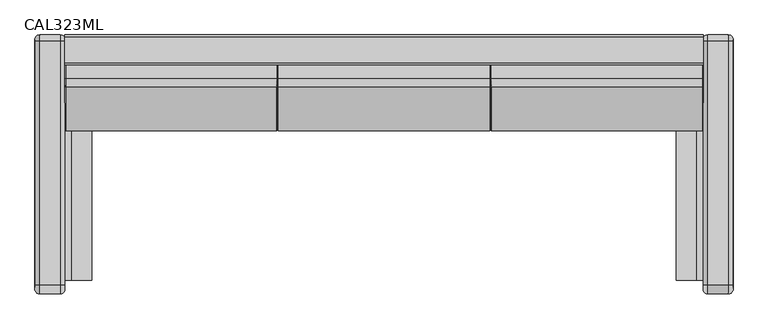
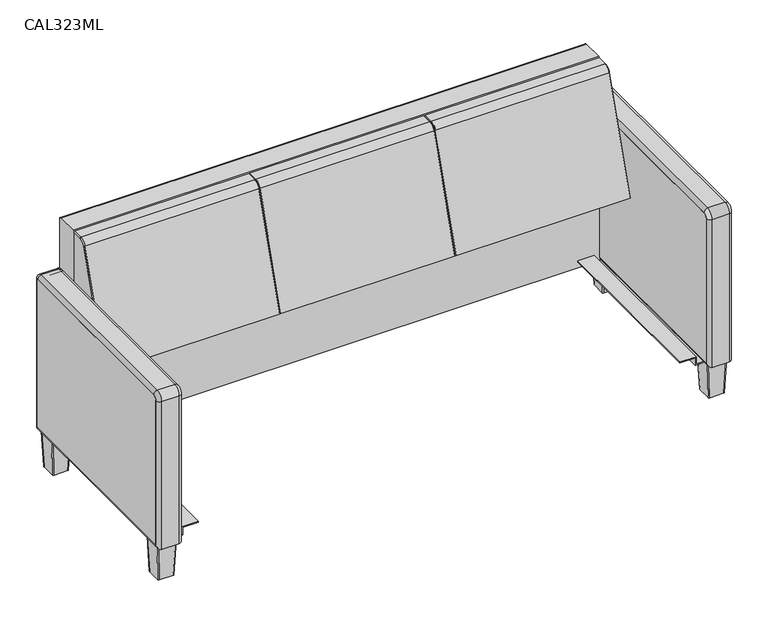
"""IFC4 building model written with IfcOpenShell, lengths in millimetres: furniture geometry, Stance_Healthacare-Carlson-Arm_Chair : CAL323ML."""

from ifc_helpers import new_model, si_unit, point, frame, frame_2d, origin, place, context, project, spatial, polyline, circle_curve, ellipse_curve, trimmed, segment, composite_curve, outline, extrude, source, transform, mapped, element, save
from ifc_brep_helpers import plane_surface, cylinder_surface, revolved_surface, extruded_surface, advanced_brep


def cal323ml_00ee40da(model_context):
    return source(origin(), model_context, "Body", "SolidModel", [
        extrude(outline(polyline([(120.65, 885.825), (123.825, 885.825), (123.825, 857.25), (149.225, 857.25), (149.225, 803.275), (146.05, 803.275), (146.05, 854.075), (120.65, 854.075), (120.65, 885.825)])), frame((0.0, -299.4664097, 0.0), z_axis=(0.0, 1.0, 0.0), x_axis=(0.0, 0.0, 1.0)), (0.0, 0.0, 1.0), 635.0),
        extrude(outline(composite_curve([segment(trimmed(circle_curve(frame_2d((357.7585903, 655.6502)), 3.175), [point((357.7585903, 658.8252))], [point((360.9335903, 655.6502))], False, "CARTESIAN"), True, "CONTINUOUS"), segment(polyline([(360.9335903, 655.6502), (360.9335903, 136.525), (-324.8664097, 136.525), (-324.8664097, 646.1252)]), True, "CONTINUOUS"), segment(trimmed(circle_curve(frame_2d((-312.1664097, 646.1252)), 12.7), [point((-324.8664097, 646.1252))], [point((-312.1664097, 658.8252))], False, "CARTESIAN"), True, "CONTINUOUS"), segment(polyline([(-312.1664097, 658.8252), (357.7585903, 658.8252)]), True, "CONTINUOUS")], self_intersect=False)), frame((876.3, 0.0, 0.0), z_axis=(1.0, 0.0, 0.0), x_axis=(0.0, 1.0, 0.0)), (0.0, 0.0, 1.0), 82.55),
        advanced_brep(
        [(889.0, 357.7585903, 671.5252), (946.15, 357.7585903, 671.5252), (946.15, 373.6335903, 655.6502), (889.0, 373.6335903, 655.6502), (876.3, 357.7585903, 658.8252), (876.3, 360.9335903, 655.6502), (958.85, 357.7585903, 658.8252), (958.85, 360.9335903, 655.6502), (889.0, -312.1664097, 671.5252), (946.15, -312.1664097, 671.5252), (876.3, -312.1664097, 658.8252), (958.85, -312.1664097, 658.8252), (889.0, -337.5664097, 646.1252), (946.15, -337.5664097, 646.1252), (876.3, -324.8664097, 646.1252), (958.85, -324.8664097, 646.1252), (889.0, -337.5664097, 123.825), (946.15, -337.5664097, 123.825), (876.3, -324.8664097, 136.525), (958.85, -324.8664097, 136.525), (889.0, 373.6335903, 123.825), (946.15, 373.6335903, 123.825), (876.3, 360.9335903, 136.525), (958.85, 360.9335903, 136.525)],
        [
            (0, 1),
            (1, 2, circle_curve(frame((946.15, 357.7585903, 655.6502), z_axis=(-1.0, 0.0, 0.0), x_axis=(0.0, 1.0, 0.0)), 15.875)),
            (2, 3),
            (3, 0, circle_curve(frame((889.0, 357.7585903, 655.6502), z_axis=(1.0, 0.0, 0.0), x_axis=(0.0, 1.0, 0.0)), 15.875)),
            (4, 0, circle_curve(frame((889.0, 357.7585903, 658.8252), z_axis=(0.0, 1.0, 0.0), x_axis=(-1.0, 0.0, 0.0)), 12.7)),
            (3, 5, circle_curve(frame((889.0, 360.9335903, 655.6502), z_axis=(0.0, 0.0, 1.0), x_axis=(-1.0, 0.0, 0.0)), 12.7)),
            (5, 4, circle_curve(frame((876.3, 357.7585903, 655.6502), z_axis=(1.0, 0.0, 0.0), x_axis=(0.0, 1.0, 0.0)), 3.175)),
            (6, 4),
            (5, 7),
            (7, 6, circle_curve(frame((958.85, 357.7585903, 655.6502), z_axis=(1.0, 0.0, 0.0), x_axis=(0.0, 1.0, 0.0)), 3.175)),
            (1, 6, circle_curve(frame((946.15, 357.7585903, 658.8252), z_axis=(0.0, 1.0, 0.0), x_axis=(-1.0, 0.0, 0.0)), 12.7)),
            (7, 2, circle_curve(frame((946.15, 360.9335903, 655.6502), z_axis=(0.0, 0.0, 1.0), x_axis=(-1.0, 0.0, 0.0)), 12.7)),
            (0, 8),
            (8, 9),
            (9, 1),
            (4, 10),
            (10, 8, circle_curve(frame((889.0, -312.1664097, 658.8252), z_axis=(0.0, 1.0, 0.0), x_axis=(-1.0, 0.0, 0.0)), 12.7)),
            (6, 11),
            (11, 10),
            (9, 11, circle_curve(frame((946.15, -312.1664097, 658.8252), z_axis=(0.0, 1.0, 0.0), x_axis=(-1.0, 0.0, 0.0)), 12.7)),
            (12, 13),
            (13, 9, circle_curve(frame((946.15, -312.1664097, 646.1252), z_axis=(-1.0, 0.0, 0.0), x_axis=(0.0, 0.0, 1.0)), 25.4)),
            (8, 12, circle_curve(frame((889.0, -312.1664097, 646.1252), z_axis=(1.0, 0.0, 0.0), x_axis=(0.0, 0.0, 1.0)), 25.4)),
            (14, 12, circle_curve(frame((889.0, -324.8664097, 646.1252), z_axis=(0.0, 0.0, 1.0), x_axis=(-1.0, 0.0, 0.0)), 12.7)),
            (10, 14, circle_curve(frame((876.3, -312.1664097, 646.1252), z_axis=(1.0, 0.0, 0.0), x_axis=(0.0, 0.0, 1.0)), 12.7)),
            (15, 14),
            (11, 15, circle_curve(frame((958.85, -312.1664097, 646.1252), z_axis=(1.0, 0.0, 0.0), x_axis=(0.0, 0.0, 1.0)), 12.7)),
            (13, 15, circle_curve(frame((946.15, -324.8664097, 646.1252), z_axis=(0.0, 0.0, 1.0), x_axis=(-1.0, 0.0, 0.0)), 12.7)),
            (12, 16),
            (16, 17),
            (17, 13),
            (14, 18),
            (18, 16, ellipse_curve(frame((889.0, -324.8664097, 136.525), z_axis=(0.0, -0.7071067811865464, 0.7071067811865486), x_axis=(0.0, 0.7071067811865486, 0.7071067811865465)), 17.9605122, 12.7)),
            (15, 19),
            (19, 18),
            (17, 19, ellipse_curve(frame((946.15, -324.8664097, 136.525), z_axis=(0.0, -0.7071067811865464, 0.7071067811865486), x_axis=(0.0, 0.7071067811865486, 0.7071067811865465)), 17.9605122, 12.7)),
            (16, 20),
            (20, 21),
            (21, 17),
            (18, 22),
            (22, 20, ellipse_curve(frame((889.0, 360.9335903, 136.525), z_axis=(0.0, -0.7071067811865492, -0.7071067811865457), x_axis=(0.0, -0.7071067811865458, 0.7071067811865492)), 17.9605122, 12.7)),
            (19, 23),
            (23, 22),
            (21, 23, ellipse_curve(frame((946.15, 360.9335903, 136.525), z_axis=(0.0, -0.7071067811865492, -0.7071067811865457), x_axis=(0.0, -0.7071067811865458, 0.7071067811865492)), 17.9605122, 12.7)),
            (20, 3),
            (2, 21),
            (22, 5),
            (23, 7),
        ],
        [
            cylinder_surface(frame((876.3, 357.7585903, 655.6502), z_axis=(-1.0, 0.0, 0.0), x_axis=(0.0, 1.0, 0.0)), 15.875),
            revolved_surface(trimmed(ellipse_curve(frame((889.0, 360.9335903, 655.6502), z_axis=(0.0, 0.0, 1.0), x_axis=(-1.0, 0.0, 0.0)), 12.7, 12.7), [point((889.0, 373.6335903, 655.6502))], [point((876.3, 360.9335903, 655.6502))], True, "CARTESIAN"), (876.3, 357.7585903, 655.6502), (-1.0, 0.0, 0.0)),
            revolved_surface(polyline([(876.3, 360.9335903, 655.6502), (958.85, 360.9335903, 655.6502)]), (876.3, 357.7585903, 655.6502), (-1.0, 0.0, 0.0)),
            revolved_surface(trimmed(ellipse_curve(frame((946.15, 360.9335903, 655.6502), z_axis=(0.0, 0.0, 1.0), x_axis=(-1.0, 0.0, 0.0)), 12.7, 12.7), [point((958.85, 360.9335903, 655.6502))], [point((946.15, 373.6335903, 655.6502))], True, "CARTESIAN"), (876.3, 357.7585903, 655.6502), (-1.0, 0.0, 0.0)),
            plane_surface(frame((946.15, 357.7585903, 671.5252), z_axis=(0.0, 0.0, 1.0), x_axis=(0.0, -1.0, 0.0))),
            cylinder_surface(frame((889.0, 357.7585903, 658.8252), z_axis=(0.0, 1.0, 0.0), x_axis=(-1.0, 0.0, 0.0)), 12.7),
            plane_surface(frame((876.3, 357.7585903, 658.8252), z_axis=(0.0, 0.0, -1.0), x_axis=(0.0, -1.0, 0.0))),
            cylinder_surface(frame((946.15, 357.7585903, 658.8252), z_axis=(0.0, 1.0, 0.0), x_axis=(-1.0, 0.0, 0.0)), 12.7),
            cylinder_surface(frame((876.3, -312.1664097, 646.1252), z_axis=(-1.0, 0.0, 0.0), x_axis=(0.0, 0.0, 1.0)), 25.4),
            revolved_surface(trimmed(ellipse_curve(frame((889.0, -312.1664097, 658.8252), z_axis=(0.0, -1.0, 0.0), x_axis=(-1.0, 0.0, 0.0)), 12.7, 12.7), [point((889.0, -312.1664097, 671.5252))], [point((876.3, -312.1664097, 658.8252))], True, "CARTESIAN"), (876.3, -312.1664097, 646.1252), (-1.0, 0.0, 0.0)),
            revolved_surface(polyline([(876.3, -312.1664097, 658.8252), (958.85, -312.1664097, 658.8252)]), (876.3, -312.1664097, 646.1252), (-1.0, 0.0, 0.0)),
            revolved_surface(trimmed(ellipse_curve(frame((946.15, -312.1664097, 658.8252), z_axis=(0.0, -1.0, 0.0), x_axis=(-1.0, 0.0, 0.0)), 12.7, 12.7), [point((958.85, -312.1664097, 658.8252))], [point((946.15, -312.1664097, 671.5252))], True, "CARTESIAN"), (876.3, -312.1664097, 646.1252), (-1.0, 0.0, 0.0)),
            plane_surface(frame((946.15, -337.5664097, 646.1252), z_axis=(0.0, -1.0, 0.0), x_axis=(0.0, 0.0, -1.0))),
            cylinder_surface(frame((889.0, -324.8664097, 646.1252), z_axis=(0.0, 0.0, 1.0), x_axis=(-1.0, 0.0, 0.0)), 12.7),
            plane_surface(frame((876.3, -324.8664097, 646.1252), z_axis=(0.0, 1.0, 0.0), x_axis=(0.0, 0.0, -1.0))),
            cylinder_surface(frame((946.15, -324.8664097, 646.1252), z_axis=(0.0, 0.0, 1.0), x_axis=(-1.0, 0.0, 0.0)), 12.7),
            plane_surface(frame((946.15, -337.5664097, 123.825), z_axis=(0.0, 0.0, -1.0), x_axis=(0.0, 1.0, 0.0))),
            cylinder_surface(frame((889.0, -337.5664097, 136.525), z_axis=(0.0, -1.0, 0.0), x_axis=(-1.0, 0.0, 0.0)), 12.7),
            plane_surface(frame((876.3, -324.8664097, 136.525), z_axis=(0.0, 0.0, 1.0), x_axis=(0.0, 1.0, 0.0))),
            cylinder_surface(frame((946.15, -337.5664097, 136.525), z_axis=(0.0, -1.0, 0.0), x_axis=(-1.0, 0.0, 0.0)), 12.7),
            plane_surface(frame((946.15, 373.6335903, 123.825), z_axis=(0.0, 1.0, 0.0), x_axis=(0.0, 0.0, 1.0))),
            cylinder_surface(frame((889.0, 360.9335903, 123.825), z_axis=(0.0, 0.0, -1.0), x_axis=(-1.0, 0.0, 0.0)), 12.7),
            plane_surface(frame((876.3, 360.9335903, 136.525), z_axis=(0.0, -1.0, 0.0), x_axis=(0.0, 0.0, 1.0))),
            cylinder_surface(frame((946.15, 360.9335903, 123.825), z_axis=(0.0, 0.0, -1.0), x_axis=(-1.0, 0.0, 0.0)), 12.7),
        ],
        [
            (0, [[1, 2, 3, 4]]),
            (1, [[5, -4, 6, 7]]),
            (2, [[8, -7, 9, 10]]),
            (3, [[11, -10, 12, -2]]),
            (4, [[13, 14, 15, -1]]),
            (5, [[16, 17, -13, -5]]),
            (6, [[18, 19, -16, -8]]),
            (7, [[-15, 20, -18, -11]]),
            (8, [[21, 22, -14, 23]]),
            (9, [[24, -23, -17, 25]]),
            (10, [[26, -25, -19, 27]]),
            (11, [[28, -27, -20, -22]]),
            (12, [[29, 30, 31, -21]]),
            (13, [[32, 33, -29, -24]]),
            (14, [[34, 35, -32, -26]]),
            (15, [[-31, 36, -34, -28]]),
            (16, [[37, 38, 39, -30]]),
            (17, [[40, 41, -37, -33]]),
            (18, [[42, 43, -40, -35]]),
            (19, [[-39, 44, -42, -36]]),
            (20, [[45, -3, 46, -38]]),
            (21, [[47, -6, -45, -41]]),
            (22, [[48, -9, -47, -43]]),
            (23, [[-46, -12, -48, -44]]),
        ],
    ),
        advanced_brep(
        [(889.0, 291.0835903, 123.825), (946.15, 291.0835903, 123.825), (949.325, 294.2585903, 123.825), (949.325, 351.4085903, 123.825), (946.15, 354.5835903, 123.825), (889.0, 354.5835903, 123.825), (885.825, 351.4085903, 123.825), (885.825, 294.2585903, 123.825), (894.159375, 296.2112153, 0.0), (890.984375, 299.3862153, 0.0), (890.984375, 346.2809653, 0.0), (894.159375, 349.4559653, 0.0), (940.990625, 349.4559653, 0.0), (944.165625, 346.2809653, 0.0), (944.165625, 299.3862153, 0.0), (940.990625, 296.2112153, 0.0)],
        [
            (0, 1),
            (1, 2, circle_curve(frame((946.15, 294.2585903, 123.825), z_axis=(0.0, 0.0, 1.0), x_axis=(-1.0, 0.0, 0.0)), 3.175)),
            (2, 3),
            (3, 4, circle_curve(frame((946.15, 351.4085903, 123.825), z_axis=(0.0, 0.0, 1.0), x_axis=(-1.0, 0.0, 0.0)), 3.175)),
            (4, 5),
            (5, 6, circle_curve(frame((889.0, 351.4085903, 123.825), z_axis=(0.0, 0.0, 1.0), x_axis=(-1.0, 0.0, 0.0)), 3.175)),
            (6, 7),
            (7, 0, circle_curve(frame((889.0, 294.2585903, 123.825), z_axis=(0.0, 0.0, 1.0), x_axis=(-1.0, 0.0, 0.0)), 3.175)),
            (8, 9, circle_curve(frame((894.159375, 299.3862153, 0.0), z_axis=(0.0, 0.0, -1.0), x_axis=(-1.0, 0.0, 0.0)), 3.175)),
            (9, 10),
            (10, 11, circle_curve(frame((894.159375, 346.2809653, 0.0), z_axis=(0.0, 0.0, -1.0), x_axis=(-1.0, 0.0, 0.0)), 3.175)),
            (11, 12),
            (12, 13, circle_curve(frame((940.990625, 346.2809653, 0.0), z_axis=(0.0, 0.0, -1.0), x_axis=(-1.0, 0.0, 0.0)), 3.175)),
            (13, 14),
            (14, 15, circle_curve(frame((940.990625, 299.3862153, 0.0), z_axis=(0.0, 0.0, -1.0), x_axis=(-1.0, 0.0, 0.0)), 3.175)),
            (15, 8),
            (8, 0),
            (7, 9),
            (6, 10),
            (5, 11),
            (4, 12),
            (3, 13),
            (2, 14),
            (1, 15),
        ],
        [
            plane_surface(frame((917.575, 322.8335903, 123.825), z_axis=(0.0, 0.0, 1.0), x_axis=(-1.0, 0.0, 0.0))),
            plane_surface(frame((917.575, 322.8335903, 0.0), z_axis=(0.0, 0.0, -1.0), x_axis=(-1.0, 0.0, 0.0))),
            extruded_surface(trimmed(circle_curve(frame((889.0, 294.2585903, 123.825), z_axis=(0.0, 0.0, -1.0), x_axis=(-1.0, 0.0, 0.0)), 3.175), [point((889.0, 291.0835903, 123.825))], [point((885.825, 294.2585903, 123.825))], True, "CARTESIAN"), (5.1593749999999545, 5.127625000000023, -123.825), 124.03847110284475),
            plane_surface(frame((890.984375, 322.8335903, 0.0), z_axis=(-0.9991330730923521, 0.0, -0.04163054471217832), x_axis=(0.0, 1.0, 0.0))),
            extruded_surface(trimmed(circle_curve(frame((889.0, 351.4085903, 123.825), z_axis=(0.0, 0.0, -1.0), x_axis=(-1.0, 0.0, 0.0)), 3.175), [point((885.825, 351.4085903, 123.825))], [point((889.0, 354.5835903, 123.825))], True, "CARTESIAN"), (5.1593749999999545, -5.127625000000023, -123.825), 124.03847110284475),
            plane_surface(frame((917.575, 349.4559653, 0.0), z_axis=(0.0, 0.9991436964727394, -0.04137479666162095), x_axis=(1.0, 0.0, 0.0))),
            extruded_surface(trimmed(circle_curve(frame((946.15, 351.4085903, 123.825), z_axis=(0.0, 0.0, -1.0), x_axis=(-1.0, 0.0, 0.0)), 3.175), [point((946.15, 354.5835903, 123.825))], [point((949.325, 351.4085903, 123.825))], True, "CARTESIAN"), (-5.1593749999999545, -5.127625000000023, -123.825), 124.03847110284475),
            plane_surface(frame((944.165625, 322.8335903, 0.0), z_axis=(0.9991330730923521, 0.0, -0.04163054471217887), x_axis=(0.0, -1.0, 0.0))),
            extruded_surface(trimmed(circle_curve(frame((946.15, 294.2585903, 123.825), z_axis=(0.0, 0.0, -1.0), x_axis=(-1.0, 0.0, 0.0)), 3.175), [point((949.325, 294.2585903, 123.825))], [point((946.15, 291.0835903, 123.825))], True, "CARTESIAN"), (-5.1593749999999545, 5.127625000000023, -123.825), 124.03847110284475),
            plane_surface(frame((917.575, 296.2112153, 0.0), z_axis=(0.0, -0.9991436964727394, -0.0413747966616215), x_axis=(-1.0, 0.0, 0.0))),
        ],
        [
            (0, [[1, 2, 3, 4, 5, 6, 7, 8]]),
            (1, [[9, 10, 11, 12, 13, 14, 15, 16]]),
            (2, [[17, -8, 18, -9]]),
            (3, [[-18, -7, 19, -10]]),
            (4, [[-19, -6, 20, -11]]),
            (5, [[-20, -5, 21, -12]]),
            (6, [[-21, -4, 22, -13]]),
            (7, [[-22, -3, 23, -14]]),
            (8, [[-23, -2, 24, -15]]),
            (9, [[-24, -1, -17, -16]]),
        ],
    ),
        advanced_brep(
        [(889.0, -255.0164097, 123.825), (885.825, -258.1914097, 123.825), (885.825, -315.3414097, 123.825), (889.0, -318.5164097, 123.825), (946.15, -318.5164097, 123.825), (949.325, -315.3414097, 123.825), (949.325, -258.1914097, 123.825), (946.15, -255.0164097, 123.825), (894.159375, -260.1440347, 0.0), (940.990625, -260.1440347, 0.0), (944.165625, -263.3190347, 0.0), (944.165625, -310.2137847, 0.0), (940.990625, -313.3887847, 0.0), (894.159375, -313.3887847, 0.0), (890.984375, -310.2137847, 0.0), (890.984375, -263.3190347, 0.0)],
        [
            (0, 1, circle_curve(frame((889.0, -258.1914097, 123.825), z_axis=(0.0, 0.0, 1.0), x_axis=(-1.0, 0.0, 0.0)), 3.175)),
            (1, 2),
            (2, 3, circle_curve(frame((889.0, -315.3414097, 123.825), z_axis=(0.0, 0.0, 1.0), x_axis=(-1.0, 0.0, 0.0)), 3.175)),
            (3, 4),
            (4, 5, circle_curve(frame((946.15, -315.3414097, 123.825), z_axis=(0.0, 0.0, 1.0), x_axis=(-1.0, 0.0, 0.0)), 3.175)),
            (5, 6),
            (6, 7, circle_curve(frame((946.15, -258.1914097, 123.825), z_axis=(0.0, 0.0, 1.0), x_axis=(-1.0, 0.0, 0.0)), 3.175)),
            (7, 0),
            (8, 9),
            (9, 10, circle_curve(frame((940.990625, -263.3190347, 0.0), z_axis=(0.0, 0.0, -1.0), x_axis=(-1.0, 0.0, 0.0)), 3.175)),
            (10, 11),
            (11, 12, circle_curve(frame((940.990625, -310.2137847, 0.0), z_axis=(0.0, 0.0, -1.0), x_axis=(-1.0, 0.0, 0.0)), 3.175)),
            (12, 13),
            (13, 14, circle_curve(frame((894.159375, -310.2137847, 0.0), z_axis=(0.0, 0.0, -1.0), x_axis=(-1.0, 0.0, 0.0)), 3.175)),
            (14, 15),
            (15, 8, circle_curve(frame((894.159375, -263.3190347, 0.0), z_axis=(0.0, 0.0, -1.0), x_axis=(-1.0, 0.0, 0.0)), 3.175)),
            (8, 0),
            (7, 9),
            (6, 10),
            (5, 11),
            (4, 12),
            (3, 13),
            (2, 14),
            (1, 15),
        ],
        [
            plane_surface(frame((917.575, -286.7664097, 123.825), z_axis=(0.0, 0.0, 1.0), x_axis=(-1.0, 0.0, 0.0))),
            plane_surface(frame((917.575, -286.7664097, 0.0), z_axis=(0.0, 0.0, -1.0), x_axis=(-1.0, 0.0, 0.0))),
            plane_surface(frame((917.575, -260.1440347, 0.0), z_axis=(0.0, 0.9991436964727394, -0.041374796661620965), x_axis=(1.0, 0.0, 0.0))),
            extruded_surface(trimmed(circle_curve(frame((946.15, -258.1914097, 123.825), z_axis=(0.0, 0.0, -1.0), x_axis=(-1.0, 0.0, 0.0)), 3.175), [point((946.15, -255.0164097, 123.825))], [point((949.325, -258.1914097, 123.825))], True, "CARTESIAN"), (-5.1593749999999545, -5.127624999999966, -123.825), 124.03847110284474),
            plane_surface(frame((944.165625, -286.7664097, 0.0), z_axis=(0.9991330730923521, 0.0, -0.04163054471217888), x_axis=(0.0, -1.0, 0.0))),
            extruded_surface(trimmed(circle_curve(frame((946.15, -315.3414097, 123.825), z_axis=(0.0, 0.0, -1.0), x_axis=(-1.0, 0.0, 0.0)), 3.175), [point((949.325, -315.3414097, 123.825))], [point((946.15, -318.5164097, 123.825))], True, "CARTESIAN"), (-5.1593749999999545, 5.127624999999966, -123.825), 124.03847110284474),
            plane_surface(frame((917.575, -313.3887847, 0.0), z_axis=(0.0, -0.9991436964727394, -0.041374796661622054), x_axis=(-1.0, 0.0, 0.0))),
            extruded_surface(trimmed(circle_curve(frame((889.0, -315.3414097, 123.825), z_axis=(0.0, 0.0, -1.0), x_axis=(-1.0, 0.0, 0.0)), 3.175), [point((889.0, -318.5164097, 123.825))], [point((885.825, -315.3414097, 123.825))], True, "CARTESIAN"), (5.1593749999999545, 5.127624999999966, -123.825), 124.03847110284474),
            plane_surface(frame((890.984375, -286.7664097, 0.0), z_axis=(-0.9991330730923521, 0.0, -0.041630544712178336), x_axis=(0.0, 1.0, 0.0))),
            extruded_surface(trimmed(circle_curve(frame((889.0, -258.1914097, 123.825), z_axis=(0.0, 0.0, -1.0), x_axis=(-1.0, 0.0, 0.0)), 3.175), [point((885.825, -258.1914097, 123.825))], [point((889.0, -255.0164097, 123.825))], True, "CARTESIAN"), (5.1593749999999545, -5.127624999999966, -123.825), 124.03847110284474),
        ],
        [
            (0, [[1, 2, 3, 4, 5, 6, 7, 8]]),
            (1, [[9, 10, 11, 12, 13, 14, 15, 16]]),
            (2, [[17, -8, 18, -9]]),
            (3, [[-18, -7, 19, -10]]),
            (4, [[-19, -6, 20, -11]]),
            (5, [[-20, -5, 21, -12]]),
            (6, [[-21, -4, 22, -13]]),
            (7, [[-22, -3, 23, -14]]),
            (8, [[-23, -2, 24, -15]]),
            (9, [[-24, -1, -17, -16]]),
        ],
    ),
        extrude(outline(polyline([(120.65, -885.825), (120.65, -854.075), (146.05, -854.075), (146.05, -803.275), (149.225, -803.275), (149.225, -857.25), (123.825, -857.25), (123.825, -885.825), (120.65, -885.825)])), frame((0.0, -299.4664097, 0.0), z_axis=(0.0, 1.0, 0.0), x_axis=(0.0, 0.0, 1.0)), (0.0, 0.0, 1.0), 635.0),
        extrude(outline(composite_curve([segment(trimmed(circle_curve(frame_2d((357.7585903, 655.6502)), 3.175), [point((357.7585903, 658.8252))], [point((360.9335903, 655.6502))], False, "CARTESIAN"), True, "CONTINUOUS"), segment(polyline([(360.9335903, 655.6502), (360.9335903, 136.525), (-324.8664097, 136.525), (-324.8664097, 646.1252)]), True, "CONTINUOUS"), segment(trimmed(circle_curve(frame_2d((-312.1664097, 646.1252)), 12.7), [point((-324.8664097, 646.1252))], [point((-312.1664097, 658.8252))], False, "CARTESIAN"), True, "CONTINUOUS"), segment(polyline([(-312.1664097, 658.8252), (357.7585903, 658.8252)]), True, "CONTINUOUS")], self_intersect=False)), frame((-958.85, 0.0, 0.0), z_axis=(1.0, 0.0, 0.0), x_axis=(0.0, 1.0, 0.0)), (0.0, 0.0, 1.0), 82.55),
        advanced_brep(
        [(-889.0, 357.7585903, 671.5252), (-889.0, 373.6335903, 655.6502), (-946.15, 373.6335903, 655.6502), (-946.15, 357.7585903, 671.5252), (-876.3, 357.7585903, 658.8252), (-876.3, 360.9335903, 655.6502), (-958.85, 357.7585903, 658.8252), (-958.85, 360.9335903, 655.6502), (-946.15, -312.1664097, 671.5252), (-889.0, -312.1664097, 671.5252), (-876.3, -312.1664097, 658.8252), (-958.85, -312.1664097, 658.8252), (-889.0, -337.5664097, 646.1252), (-946.15, -337.5664097, 646.1252), (-876.3, -324.8664097, 646.1252), (-958.85, -324.8664097, 646.1252), (-946.15, -337.5664097, 123.825), (-889.0, -337.5664097, 123.825), (-876.3, -324.8664097, 136.525), (-958.85, -324.8664097, 136.525), (-946.15, 373.6335903, 123.825), (-889.0, 373.6335903, 123.825), (-876.3, 360.9335903, 136.525), (-958.85, 360.9335903, 136.525)],
        [
            (0, 1, circle_curve(frame((-889.0, 357.7585903, 655.6502), z_axis=(-1.0, 0.0, 0.0), x_axis=(0.0, 1.0, 0.0)), 15.875)),
            (1, 2),
            (2, 3, circle_curve(frame((-946.15, 357.7585903, 655.6502), z_axis=(1.0, 0.0, 0.0), x_axis=(0.0, 1.0, 0.0)), 15.875)),
            (3, 0),
            (4, 5, circle_curve(frame((-876.3, 357.7585903, 655.6502), z_axis=(-1.0, 0.0, 0.0), x_axis=(0.0, 1.0, 0.0)), 3.175)),
            (5, 1, circle_curve(frame((-889.0, 360.9335903, 655.6502), z_axis=(0.0, 0.0, 1.0), x_axis=(1.0, 0.0, 0.0)), 12.7)),
            (0, 4, circle_curve(frame((-889.0, 357.7585903, 658.8252), z_axis=(0.0, 1.0, 0.0), x_axis=(1.0, 0.0, 0.0)), 12.7)),
            (6, 7, circle_curve(frame((-958.85, 357.7585903, 655.6502), z_axis=(-1.0, 0.0, 0.0), x_axis=(0.0, 1.0, 0.0)), 3.175)),
            (7, 5),
            (4, 6),
            (2, 7, circle_curve(frame((-946.15, 360.9335903, 655.6502), z_axis=(0.0, 0.0, 1.0), x_axis=(1.0, 0.0, 0.0)), 12.7)),
            (6, 3, circle_curve(frame((-946.15, 357.7585903, 658.8252), z_axis=(0.0, 1.0, 0.0), x_axis=(1.0, 0.0, 0.0)), 12.7)),
            (3, 8),
            (8, 9),
            (9, 0),
            (9, 10, circle_curve(frame((-889.0, -312.1664097, 658.8252), z_axis=(0.0, 1.0, 0.0), x_axis=(1.0, 0.0, 0.0)), 12.7)),
            (10, 4),
            (10, 11),
            (11, 6),
            (11, 8, circle_curve(frame((-946.15, -312.1664097, 658.8252), z_axis=(0.0, 1.0, 0.0), x_axis=(1.0, 0.0, 0.0)), 12.7)),
            (12, 9, circle_curve(frame((-889.0, -312.1664097, 646.1252), z_axis=(-1.0, 0.0, 0.0), x_axis=(0.0, 0.0, 1.0)), 25.4)),
            (8, 13, circle_curve(frame((-946.15, -312.1664097, 646.1252), z_axis=(1.0, 0.0, 0.0), x_axis=(0.0, 0.0, 1.0)), 25.4)),
            (13, 12),
            (14, 10, circle_curve(frame((-876.3, -312.1664097, 646.1252), z_axis=(-1.0, 0.0, 0.0), x_axis=(0.0, 0.0, 1.0)), 12.7)),
            (12, 14, circle_curve(frame((-889.0, -324.8664097, 646.1252), z_axis=(0.0, 0.0, 1.0), x_axis=(1.0, 0.0, 0.0)), 12.7)),
            (15, 11, circle_curve(frame((-958.85, -312.1664097, 646.1252), z_axis=(-1.0, 0.0, 0.0), x_axis=(0.0, 0.0, 1.0)), 12.7)),
            (14, 15),
            (15, 13, circle_curve(frame((-946.15, -324.8664097, 646.1252), z_axis=(0.0, 0.0, 1.0), x_axis=(1.0, 0.0, 0.0)), 12.7)),
            (13, 16),
            (16, 17),
            (17, 12),
            (17, 18, ellipse_curve(frame((-889.0, -324.8664097, 136.525), z_axis=(0.0, -0.7071067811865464, 0.7071067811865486), x_axis=(0.0, 0.7071067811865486, 0.7071067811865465)), 17.9605122, 12.7)),
            (18, 14),
            (18, 19),
            (19, 15),
            (19, 16, ellipse_curve(frame((-946.15, -324.8664097, 136.525), z_axis=(0.0, -0.7071067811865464, 0.7071067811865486), x_axis=(0.0, 0.7071067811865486, 0.7071067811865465)), 17.9605122, 12.7)),
            (16, 20),
            (20, 21),
            (21, 17),
            (21, 22, ellipse_curve(frame((-889.0, 360.9335903, 136.525), z_axis=(0.0, -0.7071067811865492, -0.7071067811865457), x_axis=(0.0, -0.7071067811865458, 0.7071067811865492)), 17.9605122, 12.7)),
            (22, 18),
            (22, 23),
            (23, 19),
            (23, 20, ellipse_curve(frame((-946.15, 360.9335903, 136.525), z_axis=(0.0, -0.7071067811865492, -0.7071067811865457), x_axis=(0.0, -0.7071067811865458, 0.7071067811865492)), 17.9605122, 12.7)),
            (20, 2),
            (1, 21),
            (5, 22),
            (7, 23),
        ],
        [
            cylinder_surface(frame((-876.3, 357.7585903, 655.6502), z_axis=(1.0, 0.0, 0.0), x_axis=(0.0, 1.0, 0.0)), 15.875),
            revolved_surface(trimmed(ellipse_curve(frame((-889.0, 360.9335903, 655.6502), z_axis=(0.0, 0.0, -1.0), x_axis=(1.0, 0.0, 0.0)), 12.7, 12.7), [point((-889.0, 373.6335903, 655.6502))], [point((-876.3, 360.9335903, 655.6502))], True, "CARTESIAN"), (-876.3, 357.7585903, 655.6502), (1.0, 0.0, 0.0)),
            revolved_surface(polyline([(-876.3, 360.9335903, 655.6502), (-958.85, 360.9335903, 655.6502)]), (-876.3, 357.7585903, 655.6502), (1.0, 0.0, 0.0)),
            revolved_surface(trimmed(ellipse_curve(frame((-946.15, 360.9335903, 655.6502), z_axis=(0.0, 0.0, -1.0), x_axis=(1.0, 0.0, 0.0)), 12.7, 12.7), [point((-958.85, 360.9335903, 655.6502))], [point((-946.15, 373.6335903, 655.6502))], True, "CARTESIAN"), (-876.3, 357.7585903, 655.6502), (1.0, 0.0, 0.0)),
            plane_surface(frame((-946.15, 357.7585903, 671.5252), z_axis=(0.0, 0.0, 1.0), x_axis=(0.0, -1.0, 0.0))),
            cylinder_surface(frame((-889.0, 357.7585903, 658.8252), z_axis=(0.0, 1.0, 0.0), x_axis=(1.0, 0.0, 0.0)), 12.7),
            plane_surface(frame((-876.3, 357.7585903, 658.8252), z_axis=(0.0, 0.0, -1.0), x_axis=(0.0, -1.0, 0.0))),
            cylinder_surface(frame((-946.15, 357.7585903, 658.8252), z_axis=(0.0, 1.0, 0.0), x_axis=(1.0, 0.0, 0.0)), 12.7),
            cylinder_surface(frame((-876.3, -312.1664097, 646.1252), z_axis=(1.0, 0.0, 0.0), x_axis=(0.0, 0.0, 1.0)), 25.4),
            revolved_surface(trimmed(ellipse_curve(frame((-889.0, -312.1664097, 658.8252), z_axis=(0.0, 1.0, 0.0), x_axis=(1.0, 0.0, 0.0)), 12.7, 12.7), [point((-889.0, -312.1664097, 671.5252))], [point((-876.3, -312.1664097, 658.8252))], True, "CARTESIAN"), (-876.3, -312.1664097, 646.1252), (1.0, 0.0, 0.0)),
            revolved_surface(polyline([(-876.3, -312.1664097, 658.8252), (-958.85, -312.1664097, 658.8252)]), (-876.3, -312.1664097, 646.1252), (1.0, 0.0, 0.0)),
            revolved_surface(trimmed(ellipse_curve(frame((-946.15, -312.1664097, 658.8252), z_axis=(0.0, 1.0, 0.0), x_axis=(1.0, 0.0, 0.0)), 12.7, 12.7), [point((-958.85, -312.1664097, 658.8252))], [point((-946.15, -312.1664097, 671.5252))], True, "CARTESIAN"), (-876.3, -312.1664097, 646.1252), (1.0, 0.0, 0.0)),
            plane_surface(frame((-946.15, -337.5664097, 646.1252), z_axis=(0.0, -1.0, 0.0), x_axis=(0.0, 0.0, -1.0))),
            cylinder_surface(frame((-889.0, -324.8664097, 646.1252), z_axis=(0.0, 0.0, 1.0), x_axis=(1.0, 0.0, 0.0)), 12.7),
            plane_surface(frame((-876.3, -324.8664097, 646.1252), z_axis=(0.0, 1.0, 0.0), x_axis=(0.0, 0.0, -1.0))),
            cylinder_surface(frame((-946.15, -324.8664097, 646.1252), z_axis=(0.0, 0.0, 1.0), x_axis=(1.0, 0.0, 0.0)), 12.7),
            plane_surface(frame((-946.15, -337.5664097, 123.825), z_axis=(0.0, 0.0, -1.0), x_axis=(0.0, 1.0, 0.0))),
            cylinder_surface(frame((-889.0, -337.5664097, 136.525), z_axis=(0.0, -1.0, 0.0), x_axis=(1.0, 0.0, 0.0)), 12.7),
            plane_surface(frame((-876.3, -324.8664097, 136.525), z_axis=(0.0, 0.0, 1.0), x_axis=(0.0, 1.0, 0.0))),
            cylinder_surface(frame((-946.15, -337.5664097, 136.525), z_axis=(0.0, -1.0, 0.0), x_axis=(1.0, 0.0, 0.0)), 12.7),
            plane_surface(frame((-946.15, 373.6335903, 123.825), z_axis=(0.0, 1.0, 0.0), x_axis=(0.0, 0.0, 1.0))),
            cylinder_surface(frame((-889.0, 360.9335903, 123.825), z_axis=(0.0, 0.0, -1.0), x_axis=(1.0, 0.0, 0.0)), 12.7),
            plane_surface(frame((-876.3, 360.9335903, 136.525), z_axis=(0.0, -1.0, 0.0), x_axis=(0.0, 0.0, 1.0))),
            cylinder_surface(frame((-946.15, 360.9335903, 123.825), z_axis=(0.0, 0.0, -1.0), x_axis=(1.0, 0.0, 0.0)), 12.7),
        ],
        [
            (0, [[1, 2, 3, 4]]),
            (1, [[5, 6, -1, 7]]),
            (2, [[8, 9, -5, 10]]),
            (3, [[-3, 11, -8, 12]]),
            (4, [[-4, 13, 14, 15]]),
            (5, [[-7, -15, 16, 17]]),
            (6, [[-10, -17, 18, 19]]),
            (7, [[-12, -19, 20, -13]]),
            (8, [[21, -14, 22, 23]]),
            (9, [[24, -16, -21, 25]]),
            (10, [[26, -18, -24, 27]]),
            (11, [[-22, -20, -26, 28]]),
            (12, [[-23, 29, 30, 31]]),
            (13, [[-25, -31, 32, 33]]),
            (14, [[-27, -33, 34, 35]]),
            (15, [[-28, -35, 36, -29]]),
            (16, [[-30, 37, 38, 39]]),
            (17, [[-32, -39, 40, 41]]),
            (18, [[-34, -41, 42, 43]]),
            (19, [[-36, -43, 44, -37]]),
            (20, [[-38, 45, -2, 46]]),
            (21, [[-40, -46, -6, 47]]),
            (22, [[-42, -47, -9, 48]]),
            (23, [[-44, -48, -11, -45]]),
        ],
    ),
        advanced_brep(
        [(-889.0, 291.0835903, 123.825), (-885.825, 294.2585903, 123.825), (-885.825, 351.4085903, 123.825), (-889.0, 354.5835903, 123.825), (-946.15, 354.5835903, 123.825), (-949.325, 351.4085903, 123.825), (-949.325, 294.2585903, 123.825), (-946.15, 291.0835903, 123.825), (-894.159375, 296.2112153, 0.0), (-940.990625, 296.2112153, 0.0), (-944.165625, 299.3862153, 0.0), (-944.165625, 346.2809653, 0.0), (-940.990625, 349.4559653, 0.0), (-894.159375, 349.4559653, 0.0), (-890.984375, 346.2809653, 0.0), (-890.984375, 299.3862153, 0.0)],
        [
            (0, 1, circle_curve(frame((-889.0, 294.2585903, 123.825), z_axis=(0.0, 0.0, 1.0), x_axis=(1.0, 0.0, 0.0)), 3.175)),
            (1, 2),
            (2, 3, circle_curve(frame((-889.0, 351.4085903, 123.825), z_axis=(0.0, 0.0, 1.0), x_axis=(1.0, 0.0, 0.0)), 3.175)),
            (3, 4),
            (4, 5, circle_curve(frame((-946.15, 351.4085903, 123.825), z_axis=(0.0, 0.0, 1.0), x_axis=(1.0, 0.0, 0.0)), 3.175)),
            (5, 6),
            (6, 7, circle_curve(frame((-946.15, 294.2585903, 123.825), z_axis=(0.0, 0.0, 1.0), x_axis=(1.0, 0.0, 0.0)), 3.175)),
            (7, 0),
            (8, 9),
            (9, 10, circle_curve(frame((-940.990625, 299.3862153, 0.0), z_axis=(0.0, 0.0, -1.0), x_axis=(1.0, 0.0, 0.0)), 3.175)),
            (10, 11),
            (11, 12, circle_curve(frame((-940.990625, 346.2809653, 0.0), z_axis=(0.0, 0.0, -1.0), x_axis=(1.0, 0.0, 0.0)), 3.175)),
            (12, 13),
            (13, 14, circle_curve(frame((-894.159375, 346.2809653, 0.0), z_axis=(0.0, 0.0, -1.0), x_axis=(1.0, 0.0, 0.0)), 3.175)),
            (14, 15),
            (15, 8, circle_curve(frame((-894.159375, 299.3862153, 0.0), z_axis=(0.0, 0.0, -1.0), x_axis=(1.0, 0.0, 0.0)), 3.175)),
            (15, 1),
            (0, 8),
            (14, 2),
            (13, 3),
            (12, 4),
            (11, 5),
            (10, 6),
            (9, 7),
        ],
        [
            plane_surface(frame((-917.575, 322.8335903, 123.825), z_axis=(0.0, 0.0, 1.0), x_axis=(1.0, 0.0, 0.0))),
            plane_surface(frame((-917.575, 322.8335903, 0.0), z_axis=(0.0, 0.0, -1.0), x_axis=(1.0, 0.0, 0.0))),
            extruded_surface(trimmed(circle_curve(frame((-894.159375, 299.3862153, 0.0), z_axis=(0.0, 0.0, 1.0), x_axis=(1.0, 0.0, 0.0)), 3.175), [point((-894.159375, 296.2112153, 0.0))], [point((-890.984375, 299.3862153, 0.0))], True, "CARTESIAN"), (5.1593749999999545, -5.127625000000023, 123.825), 124.03847110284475),
            plane_surface(frame((-890.984375, 322.8335903, 0.0), z_axis=(0.9991330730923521, 0.0, -0.04163054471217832), x_axis=(0.0, 1.0, 0.0))),
            extruded_surface(trimmed(circle_curve(frame((-894.159375, 346.2809653, 0.0), z_axis=(0.0, 0.0, 1.0), x_axis=(1.0, 0.0, 0.0)), 3.175), [point((-890.984375, 346.2809653, 0.0))], [point((-894.159375, 349.4559653, 0.0))], True, "CARTESIAN"), (5.1593749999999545, 5.127625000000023, 123.825), 124.03847110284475),
            plane_surface(frame((-917.575, 349.4559653, 0.0), z_axis=(0.0, 0.9991436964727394, -0.04137479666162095), x_axis=(-1.0, 0.0, 0.0))),
            extruded_surface(trimmed(circle_curve(frame((-940.990625, 346.2809653, 0.0), z_axis=(0.0, 0.0, 1.0), x_axis=(1.0, 0.0, 0.0)), 3.175), [point((-940.990625, 349.4559653, 0.0))], [point((-944.165625, 346.2809653, 0.0))], True, "CARTESIAN"), (-5.1593749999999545, 5.127625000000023, 123.825), 124.03847110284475),
            plane_surface(frame((-944.165625, 322.8335903, 0.0), z_axis=(-0.9991330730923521, 0.0, -0.04163054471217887), x_axis=(0.0, -1.0, 0.0))),
            extruded_surface(trimmed(circle_curve(frame((-940.990625, 299.3862153, 0.0), z_axis=(0.0, 0.0, 1.0), x_axis=(1.0, 0.0, 0.0)), 3.175), [point((-944.165625, 299.3862153, 0.0))], [point((-940.990625, 296.2112153, 0.0))], True, "CARTESIAN"), (-5.1593749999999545, -5.127625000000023, 123.825), 124.03847110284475),
            plane_surface(frame((-917.575, 296.2112153, 0.0), z_axis=(0.0, -0.9991436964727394, -0.0413747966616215), x_axis=(1.0, 0.0, 0.0))),
        ],
        [
            (0, [[1, 2, 3, 4, 5, 6, 7, 8]]),
            (1, [[9, 10, 11, 12, 13, 14, 15, 16]]),
            (2, [[-16, 17, -1, 18]]),
            (3, [[-15, 19, -2, -17]]),
            (4, [[-14, 20, -3, -19]]),
            (5, [[-13, 21, -4, -20]]),
            (6, [[-12, 22, -5, -21]]),
            (7, [[-11, 23, -6, -22]]),
            (8, [[-10, 24, -7, -23]]),
            (9, [[-9, -18, -8, -24]]),
        ],
    ),
        advanced_brep(
        [(-889.0, -255.0164097, 123.825), (-946.15, -255.0164097, 123.825), (-949.325, -258.1914097, 123.825), (-949.325, -315.3414097, 123.825), (-946.15, -318.5164097, 123.825), (-889.0, -318.5164097, 123.825), (-885.825, -315.3414097, 123.825), (-885.825, -258.1914097, 123.825), (-894.159375, -260.1440347, 0.0), (-890.984375, -263.3190347, 0.0), (-890.984375, -310.2137847, 0.0), (-894.159375, -313.3887847, 0.0), (-940.990625, -313.3887847, 0.0), (-944.165625, -310.2137847, 0.0), (-944.165625, -263.3190347, 0.0), (-940.990625, -260.1440347, 0.0)],
        [
            (0, 1),
            (1, 2, circle_curve(frame((-946.15, -258.1914097, 123.825), z_axis=(0.0, 0.0, 1.0), x_axis=(1.0, 0.0, 0.0)), 3.175)),
            (2, 3),
            (3, 4, circle_curve(frame((-946.15, -315.3414097, 123.825), z_axis=(0.0, 0.0, 1.0), x_axis=(1.0, 0.0, 0.0)), 3.175)),
            (4, 5),
            (5, 6, circle_curve(frame((-889.0, -315.3414097, 123.825), z_axis=(0.0, 0.0, 1.0), x_axis=(1.0, 0.0, 0.0)), 3.175)),
            (6, 7),
            (7, 0, circle_curve(frame((-889.0, -258.1914097, 123.825), z_axis=(0.0, 0.0, 1.0), x_axis=(1.0, 0.0, 0.0)), 3.175)),
            (8, 9, circle_curve(frame((-894.159375, -263.3190347, 0.0), z_axis=(0.0, 0.0, -1.0), x_axis=(1.0, 0.0, 0.0)), 3.175)),
            (9, 10),
            (10, 11, circle_curve(frame((-894.159375, -310.2137847, 0.0), z_axis=(0.0, 0.0, -1.0), x_axis=(1.0, 0.0, 0.0)), 3.175)),
            (11, 12),
            (12, 13, circle_curve(frame((-940.990625, -310.2137847, 0.0), z_axis=(0.0, 0.0, -1.0), x_axis=(1.0, 0.0, 0.0)), 3.175)),
            (13, 14),
            (14, 15, circle_curve(frame((-940.990625, -263.3190347, 0.0), z_axis=(0.0, 0.0, -1.0), x_axis=(1.0, 0.0, 0.0)), 3.175)),
            (15, 8),
            (15, 1),
            (0, 8),
            (14, 2),
            (13, 3),
            (12, 4),
            (11, 5),
            (10, 6),
            (9, 7),
        ],
        [
            plane_surface(frame((-917.575, -286.7664097, 123.825), z_axis=(0.0, 0.0, 1.0), x_axis=(1.0, 0.0, 0.0))),
            plane_surface(frame((-917.575, -286.7664097, 0.0), z_axis=(0.0, 0.0, -1.0), x_axis=(1.0, 0.0, 0.0))),
            plane_surface(frame((-917.575, -260.1440347, 0.0), z_axis=(0.0, 0.9991436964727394, -0.041374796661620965), x_axis=(-1.0, 0.0, 0.0))),
            extruded_surface(trimmed(circle_curve(frame((-940.990625, -263.3190347, 0.0), z_axis=(0.0, 0.0, 1.0), x_axis=(1.0, 0.0, 0.0)), 3.175), [point((-940.990625, -260.1440347, 0.0))], [point((-944.165625, -263.3190347, 0.0))], True, "CARTESIAN"), (-5.1593749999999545, 5.127624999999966, 123.825), 124.03847110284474),
            plane_surface(frame((-944.165625, -286.7664097, 0.0), z_axis=(-0.9991330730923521, 0.0, -0.04163054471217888), x_axis=(0.0, -1.0, 0.0))),
            extruded_surface(trimmed(circle_curve(frame((-940.990625, -310.2137847, 0.0), z_axis=(0.0, 0.0, 1.0), x_axis=(1.0, 0.0, 0.0)), 3.175), [point((-944.165625, -310.2137847, 0.0))], [point((-940.990625, -313.3887847, 0.0))], True, "CARTESIAN"), (-5.1593749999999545, -5.127624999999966, 123.825), 124.03847110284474),
            plane_surface(frame((-917.575, -313.3887847, 0.0), z_axis=(0.0, -0.9991436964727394, -0.041374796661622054), x_axis=(1.0, 0.0, 0.0))),
            extruded_surface(trimmed(circle_curve(frame((-894.159375, -310.2137847, 0.0), z_axis=(0.0, 0.0, 1.0), x_axis=(1.0, 0.0, 0.0)), 3.175), [point((-894.159375, -313.3887847, 0.0))], [point((-890.984375, -310.2137847, 0.0))], True, "CARTESIAN"), (5.1593749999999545, -5.127624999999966, 123.825), 124.03847110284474),
            plane_surface(frame((-890.984375, -286.7664097, 0.0), z_axis=(0.9991330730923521, 0.0, -0.041630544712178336), x_axis=(0.0, 1.0, 0.0))),
            extruded_surface(trimmed(circle_curve(frame((-894.159375, -263.3190347, 0.0), z_axis=(0.0, 0.0, 1.0), x_axis=(1.0, 0.0, 0.0)), 3.175), [point((-890.984375, -263.3190347, 0.0))], [point((-894.159375, -260.1440347, 0.0))], True, "CARTESIAN"), (5.1593749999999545, 5.127624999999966, 123.825), 124.03847110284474),
        ],
        [
            (0, [[1, 2, 3, 4, 5, 6, 7, 8]]),
            (1, [[9, 10, 11, 12, 13, 14, 15, 16]]),
            (2, [[-16, 17, -1, 18]]),
            (3, [[-15, 19, -2, -17]]),
            (4, [[-14, 20, -3, -19]]),
            (5, [[-13, 21, -4, -20]]),
            (6, [[-12, 22, -5, -21]]),
            (7, [[-11, 23, -6, -22]]),
            (8, [[-10, 24, -7, -23]]),
            (9, [[-9, -18, -8, -24]]),
        ],
    ),
        advanced_brep(
        [(-876.3, 255.2487311, 836.6125), (-874.1501302, 255.2487311, 841.375), (-874.1501302, 290.2429308, 841.375), (-876.3, 290.2429308, 836.6125), (-876.3, 235.6213022, 822.3523382), (-874.1501302, 231.0918956, 823.8240317), (-876.3, 115.9409077, 454.0139582), (-874.1501302, 110.9333188, 454.0139582), (876.3, 290.2429308, 454.0139582), (876.3, 290.2429308, 836.6125), (876.3, 255.2487311, 836.6125), (876.3, 235.6213022, 822.3523382), (876.3, 115.9409077, 454.0139582), (-876.3, 290.2429308, 454.0139582), (-294.2498698, 290.2429308, 841.375), (-292.1, 290.2429308, 836.6125), (-289.9501302, 290.2429308, 841.375), (289.9501302, 290.2429308, 841.375), (292.1, 290.2429308, 836.6125), (294.2498698, 290.2429308, 841.375), (874.1501302, 290.2429308, 841.375), (-294.2498698, 255.2487311, 841.375), (874.1501302, 255.2487311, 841.375), (294.2498698, 255.2487311, 841.375), (-289.9501302, 255.2487311, 841.375), (289.9501302, 255.2487311, 841.375), (-294.2498698, 231.0918956, 823.8240317), (874.1501302, 231.0918956, 823.8240317), (294.2498698, 231.0918956, 823.8240317), (-289.9501302, 231.0918956, 823.8240317), (289.9501302, 231.0918956, 823.8240317), (-294.2498698, 110.9333188, 454.0139582), (874.1501302, 110.9333188, 454.0139582), (294.2498698, 110.9333188, 454.0139582), (-289.9501302, 110.9333188, 454.0139582), (289.9501302, 110.9333188, 454.0139582), (292.1, 115.9409077, 454.0139582), (-292.1, 115.9409077, 454.0139582), (-292.1, 255.2487311, 836.6125), (-292.1, 235.6213022, 822.3523382), (292.1, 255.2487311, 836.6125), (292.1, 235.6213022, 822.3523382)],
        [
            (0, 1, circle_curve(frame((-869.95, 255.2487311, 836.6125), z_axis=(0.0, 1.0, 0.0), x_axis=(0.0, 0.0, -1.0)), 6.35)),
            (1, 2),
            (2, 3, circle_curve(frame((-869.95, 290.2429308, 836.6125), z_axis=(0.0, -1.0, 0.0), x_axis=(0.0, 0.0, -1.0)), 6.35)),
            (3, 0),
            (0, 4, circle_curve(frame((-876.3, 255.2487311, 815.975), z_axis=(1.0, 0.0, 0.0), x_axis=(0.0, 0.0, 1.0)), 20.6375)),
            (4, 5, circle_curve(frame((-869.95, 235.6213022, 822.3523382), z_axis=(0.0, 0.30901699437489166, 0.9510565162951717), x_axis=(0.0, 0.9510565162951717, -0.30901699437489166)), 6.35)),
            (5, 1, circle_curve(frame((-874.1501302, 255.2487311, 815.975), z_axis=(-1.0, 0.0, 0.0), x_axis=(0.0, 0.0, 1.0)), 25.4)),
            (4, 6),
            (6, 7, ellipse_curve(frame((-869.95, 115.9409077, 454.0139582), z_axis=(0.0, 0.0, 1.0), x_axis=(0.0, -1.0, 0.0)), 6.6767851, 6.35)),
            (7, 5),
            (8, 9),
            (9, 10),
            (10, 11, circle_curve(frame((876.3, 255.2487311, 815.975), z_axis=(1.0, 0.0, 0.0), x_axis=(0.0, 0.0, 1.0)), 20.6375)),
            (11, 12),
            (12, 8),
            (13, 6),
            (3, 13),
            (8, 13),
            (2, 14),
            (14, 15, circle_curve(frame((-298.45, 290.2429308, 836.6125), z_axis=(0.0, 1.0, 0.0), x_axis=(0.0, 0.0, -1.0)), 6.35)),
            (15, 16, circle_curve(frame((-285.75, 290.2429308, 836.6125), z_axis=(0.0, 1.0, 0.0), x_axis=(0.0, 0.0, -1.0)), 6.35)),
            (16, 17),
            (17, 18, circle_curve(frame((285.75, 290.2429308, 836.6125), z_axis=(0.0, 1.0, 0.0), x_axis=(0.0, 0.0, -1.0)), 6.35)),
            (18, 19, circle_curve(frame((298.45, 290.2429308, 836.6125), z_axis=(0.0, 1.0, 0.0), x_axis=(0.0, 0.0, -1.0)), 6.35)),
            (19, 20),
            (20, 9, circle_curve(frame((869.95, 290.2429308, 836.6125), z_axis=(0.0, 1.0, 0.0), x_axis=(0.0, 0.0, -1.0)), 6.35)),
            (1, 21),
            (21, 14),
            (22, 20),
            (19, 23),
            (23, 22),
            (16, 24),
            (24, 25),
            (25, 17),
            (5, 26),
            (26, 21, circle_curve(frame((-294.2498698, 255.2487311, 815.975), z_axis=(-1.0, 0.0, 0.0), x_axis=(0.0, 1.0, 0.0)), 25.4)),
            (27, 22, circle_curve(frame((874.1501302, 255.2487311, 815.975), z_axis=(-1.0, 0.0, 0.0), x_axis=(0.0, 1.0, 0.0)), 25.4)),
            (23, 28, circle_curve(frame((294.2498698, 255.2487311, 815.975), z_axis=(1.0, 0.0, 0.0), x_axis=(0.0, 1.0, 0.0)), 25.4)),
            (28, 27),
            (24, 29, circle_curve(frame((-289.9501302, 255.2487311, 815.975), z_axis=(1.0, 0.0, 0.0), x_axis=(0.0, 1.0, 0.0)), 25.4)),
            (29, 30),
            (30, 25, circle_curve(frame((289.9501302, 255.2487311, 815.975), z_axis=(-1.0, 0.0, 0.0), x_axis=(0.0, 1.0, 0.0)), 25.4)),
            (7, 31),
            (31, 26),
            (32, 27),
            (28, 33),
            (33, 32),
            (29, 34),
            (34, 35),
            (35, 30),
            (12, 32, ellipse_curve(frame((869.95, 115.9409077, 454.0139582), z_axis=(0.0, 0.0, -1.0), x_axis=(0.0, -1.0, 0.0)), 6.6767851, 6.35)),
            (33, 36, ellipse_curve(frame((298.45, 115.9409077, 454.0139582), z_axis=(0.0, 0.0, -1.0), x_axis=(0.0, -1.0, 0.0)), 6.6767851, 6.35)),
            (36, 35, ellipse_curve(frame((285.75, 115.9409077, 454.0139582), z_axis=(0.0, 0.0, -1.0), x_axis=(0.0, -1.0, 0.0)), 6.6767851, 6.35)),
            (34, 37, ellipse_curve(frame((-285.75, 115.9409077, 454.0139582), z_axis=(0.0, 0.0, -1.0), x_axis=(0.0, -1.0, 0.0)), 6.6767851, 6.35)),
            (37, 31, ellipse_curve(frame((-298.45, 115.9409077, 454.0139582), z_axis=(0.0, 0.0, -1.0), x_axis=(0.0, -1.0, 0.0)), 6.6767851, 6.35)),
            (22, 10, circle_curve(frame((869.95, 255.2487311, 836.6125), z_axis=(0.0, 1.0, 0.0), x_axis=(0.0, 0.0, -1.0)), 6.35)),
            (27, 11, circle_curve(frame((869.95, 235.6213022, 822.3523382), z_axis=(0.0, 0.3090169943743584, 0.951056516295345), x_axis=(0.0, 0.951056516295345, -0.3090169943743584)), 6.35)),
            (15, 38),
            (38, 24, circle_curve(frame((-285.75, 255.2487311, 836.6125), z_axis=(0.0, 1.0, 0.0), x_axis=(0.0, 0.0, -1.0)), 6.35)),
            (21, 38, circle_curve(frame((-298.45, 255.2487311, 836.6125), z_axis=(0.0, 1.0, 0.0), x_axis=(0.0, 0.0, -1.0)), 6.35)),
            (38, 39, circle_curve(frame((-292.1, 255.2487311, 815.975), z_axis=(1.0, 0.0, 0.0), x_axis=(0.0, 0.0, 1.0)), 20.6375)),
            (39, 29, circle_curve(frame((-285.75, 235.6213022, 822.3523382), z_axis=(0.0, 0.3090169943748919, 0.9510565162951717), x_axis=(0.0, 0.9510565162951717, -0.3090169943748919)), 6.35)),
            (26, 39, circle_curve(frame((-298.45, 235.6213022, 822.3523382), z_axis=(0.0, 0.3090169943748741, 0.9510565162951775), x_axis=(0.0, 0.9510565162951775, -0.3090169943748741)), 6.35)),
            (39, 37),
            (18, 40),
            (40, 23, circle_curve(frame((298.45, 255.2487311, 836.6125), z_axis=(0.0, 1.0, 0.0), x_axis=(0.0, 0.0, -1.0)), 6.35)),
            (25, 40, circle_curve(frame((285.75, 255.2487311, 836.6125), z_axis=(0.0, 1.0, 0.0), x_axis=(0.0, 0.0, -1.0)), 6.35)),
            (40, 41, circle_curve(frame((292.1, 255.2487311, 815.975), z_axis=(1.0, 0.0, 0.0), x_axis=(0.0, 0.0, 1.0)), 20.6375)),
            (41, 28, circle_curve(frame((298.45, 235.6213022, 822.3523382), z_axis=(0.0, 0.3090169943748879, 0.951056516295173), x_axis=(0.0, 0.951056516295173, -0.3090169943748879)), 6.35)),
            (30, 41, circle_curve(frame((285.75, 235.6213022, 822.3523382), z_axis=(0.0, 0.309016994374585, 0.9510565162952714), x_axis=(0.0, 0.9510565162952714, -0.309016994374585)), 6.35)),
            (41, 36),
        ],
        [
            cylinder_surface(frame((-869.95, 290.2429308, 836.6125), z_axis=(0.0, -1.0, 0.0), x_axis=(0.0, 0.0, -1.0)), 6.35),
            revolved_surface(trimmed(ellipse_curve(frame((-869.95, 255.2487311, 836.6125), z_axis=(0.0, 1.0, 0.0), x_axis=(0.0, 0.0, -1.0)), 6.35, 6.35), [point((-876.3, 255.2487311, 836.6125))], [point((-869.95, 255.2487311, 842.9625))], True, "CARTESIAN"), (-876.3, 255.2487311, 815.975), (1.0, 0.0, 0.0)),
            cylinder_surface(frame((-869.95, 235.6213022, 822.3523382), z_axis=(0.0, -0.3090169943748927, -0.9510565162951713), x_axis=(0.0, 0.9510565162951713, -0.3090169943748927)), 6.35),
            plane_surface(frame((876.3, 290.2429308, 841.375), z_axis=(1.0, 0.0, 0.0), x_axis=(0.0, 0.0, 1.0))),
            plane_surface(frame((-876.3, 290.2429308, 841.375), z_axis=(-1.0, 0.0, 0.0), x_axis=(0.0, 0.0, -1.0))),
            plane_surface(frame((876.3, 290.2429308, 454.0139582), z_axis=(0.0, 1.0, 0.0), x_axis=(-1.0, 0.0, 0.0))),
            plane_surface(frame((876.3, 290.2429308, 841.375), z_axis=(0.0, 0.0, 1.0), x_axis=(-1.0, 0.0, 0.0))),
            cylinder_surface(frame((-876.3, 255.2487311, 815.975), z_axis=(1.0, 0.0, 0.0), x_axis=(0.0, 1.0, 0.0)), 25.4),
            plane_surface(frame((876.3, 231.0918956, 823.8240317), z_axis=(0.0, -0.9510565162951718, 0.3090169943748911), x_axis=(-1.0, 0.0, 0.0))),
            plane_surface(frame((876.3, 110.9333188, 454.0139582), z_axis=(0.0, 0.0, -1.0), x_axis=(-1.0, 0.0, 0.0))),
            cylinder_surface(frame((869.95, 290.2429308, 836.6125), z_axis=(0.0, -1.0, 0.0), x_axis=(0.0, 0.0, -1.0)), 6.35),
            revolved_surface(trimmed(ellipse_curve(frame((869.95, 255.2487311, 836.6125), z_axis=(0.0, 1.0, 0.0), x_axis=(0.0, 0.0, -1.0)), 6.35, 6.35), [point((869.95, 255.2487311, 842.9625))], [point((876.3, 255.2487311, 836.6125))], True, "CARTESIAN"), (876.3, 255.2487311, 815.975), (1.0, 0.0, 0.0)),
            cylinder_surface(frame((869.95, 235.6213022, 822.3523382), z_axis=(0.0, -0.3090169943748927, -0.9510565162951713), x_axis=(0.0, 0.9510565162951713, -0.3090169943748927)), 6.35),
            cylinder_surface(frame((-285.75, 290.2429308, 836.6125), z_axis=(0.0, -1.0, 0.0), x_axis=(0.0, 0.0, -1.0)), 6.35),
            cylinder_surface(frame((-298.45, 290.2429308, 836.6125), z_axis=(0.0, -1.0, 0.0), x_axis=(0.0, 0.0, -1.0)), 6.35),
            revolved_surface(trimmed(ellipse_curve(frame((-285.75, 255.2487311, 836.6125), z_axis=(0.0, 1.0, 0.0), x_axis=(0.0, 0.0, -1.0)), 6.35, 6.35), [point((-292.1, 255.2487311, 836.6125))], [point((-285.75, 255.2487311, 842.9625))], True, "CARTESIAN"), (-292.1, 255.2487311, 815.975), (1.0, 0.0, 0.0)),
            revolved_surface(trimmed(ellipse_curve(frame((-298.45, 255.2487311, 836.6125), z_axis=(0.0, 1.0, 0.0), x_axis=(0.0, 0.0, -1.0)), 6.35, 6.35), [point((-298.45, 255.2487311, 842.9625))], [point((-292.1, 255.2487311, 836.6125))], True, "CARTESIAN"), (-292.1, 255.2487311, 815.975), (1.0, 0.0, 0.0)),
            cylinder_surface(frame((-285.75, 235.6213022, 822.3523382), z_axis=(0.0, -0.3090169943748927, -0.9510565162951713), x_axis=(0.0, 0.9510565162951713, -0.3090169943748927)), 6.35),
            cylinder_surface(frame((-298.45, 235.6213022, 822.3523382), z_axis=(0.0, -0.3090169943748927, -0.9510565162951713), x_axis=(0.0, 0.9510565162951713, -0.3090169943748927)), 6.35),
            cylinder_surface(frame((298.45, 290.2429308, 836.6125), z_axis=(0.0, -1.0, 0.0), x_axis=(0.0, 0.0, -1.0)), 6.35),
            cylinder_surface(frame((285.75, 290.2429308, 836.6125), z_axis=(0.0, -1.0, 0.0), x_axis=(0.0, 0.0, -1.0)), 6.35),
            revolved_surface(trimmed(ellipse_curve(frame((298.45, 255.2487311, 836.6125), z_axis=(0.0, 1.0, 0.0), x_axis=(0.0, 0.0, -1.0)), 6.35, 6.35), [point((292.1, 255.2487311, 836.6125))], [point((298.45, 255.2487311, 842.9625))], True, "CARTESIAN"), (292.1, 255.2487311, 815.975), (1.0, 0.0, 0.0)),
            revolved_surface(trimmed(ellipse_curve(frame((285.75, 255.2487311, 836.6125), z_axis=(0.0, 1.0, 0.0), x_axis=(0.0, 0.0, -1.0)), 6.35, 6.35), [point((285.75, 255.2487311, 842.9625))], [point((292.1, 255.2487311, 836.6125))], True, "CARTESIAN"), (292.1, 255.2487311, 815.975), (1.0, 0.0, 0.0)),
            cylinder_surface(frame((298.45, 235.6213022, 822.3523382), z_axis=(0.0, -0.3090169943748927, -0.9510565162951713), x_axis=(0.0, 0.9510565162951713, -0.3090169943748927)), 6.35),
            cylinder_surface(frame((285.75, 235.6213022, 822.3523382), z_axis=(0.0, -0.3090169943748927, -0.9510565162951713), x_axis=(0.0, 0.9510565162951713, -0.3090169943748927)), 6.35),
        ],
        [
            (0, [[1, 2, 3, 4]]),
            (1, [[-1, 5, 6, 7]]),
            (2, [[-6, 8, 9, 10]]),
            (3, [[11, 12, 13, 14, 15]]),
            (4, [[16, -8, -5, -4, 17]]),
            (5, [[18, -17, -3, 19, 20, 21, 22, 23, 24, 25, 26, -11]]),
            (6, [[-2, 27, 28, -19]]),
            (6, [[29, -25, 30, 31]]),
            (6, [[32, 33, 34, -22]]),
            (7, [[-7, 35, 36, -27]]),
            (7, [[37, -31, 38, 39]]),
            (7, [[40, 41, 42, -33]]),
            (8, [[-10, 43, 44, -35]]),
            (8, [[45, -39, 46, 47]]),
            (8, [[48, 49, 50, -41]]),
            (9, [[-18, -15, 51, -47, 52, 53, -49, 54, 55, -43, -9, -16]]),
            (10, [[56, -12, -26, -29]]),
            (11, [[-56, -37, 57, -13]]),
            (12, [[-57, -45, -51, -14]]),
            (13, [[58, 59, -32, -21]]),
            (14, [[-58, -20, -28, 60]]),
            (15, [[61, 62, -40, -59]]),
            (16, [[-61, -60, -36, 63]]),
            (17, [[-62, 64, -54, -48]]),
            (18, [[-63, -44, -55, -64]]),
            (19, [[65, 66, -30, -24]]),
            (20, [[-65, -23, -34, 67]]),
            (21, [[68, 69, -38, -66]]),
            (22, [[-68, -67, -42, 70]]),
            (23, [[-69, 71, -52, -46]]),
            (24, [[-70, -50, -53, -71]]),
        ],
    ),
        extrude(outline(composite_curve([segment(trimmed(circle_curve(frame_2d((367.2835903, 835.025)), 6.35), [point((367.2835903, 841.375))], [point((373.6335903, 835.025))], False, "CARTESIAN"), True, "CONTINUOUS"), segment(polyline([(373.6335903, 835.025), (373.6335903, 123.825), (290.2429308, 123.825), (290.2429308, 835.025)]), True, "CONTINUOUS"), segment(trimmed(circle_curve(frame_2d((296.5929308, 835.025)), 6.35), [point((290.2429308, 835.025))], [point((296.5929308, 841.375))], False, "CARTESIAN"), True, "CONTINUOUS"), segment(polyline([(296.5929308, 841.375), (367.2835903, 841.375)]), True, "CONTINUOUS")], self_intersect=False)), frame((-876.3, 0.0, 0.0), z_axis=(1.0, 0.0, 0.0), x_axis=(0.0, 1.0, 0.0)), (0.0, 0.0, 1.0), 1752.6),
    ])


if __name__ == "__main__":
    model = new_model("IFC4")
    model_context = context("Model", 3, world=origin())
    ifc_project = project(units=[si_unit("LENGTHUNIT", "METRE", prefix="MILLI")], contexts=[model_context])
    site = spatial("IfcSite", under=ifc_project)
    building = spatial("IfcBuilding", under=site)
    placement = place(None, origin())
    cal323ml_shape = cal323ml_00ee40da(model_context)
    element("IfcFurniture", 1, ObjectType="Stance_Healthacare-Carlson-Arm_Chair : CAL323ML", at=placement, inside=building, context=model_context, shape_type="MappedRepresentation", body=[
        mapped(cal323ml_shape, transform((0.0, 0.0, 0.0), x_axis=(1.0, 0.0, 0.0), y_axis=(0.0, 1.0, 0.0), z_axis=(0.0, 0.0, 1.0))),
    ])
    save(model, "model.ifc")
